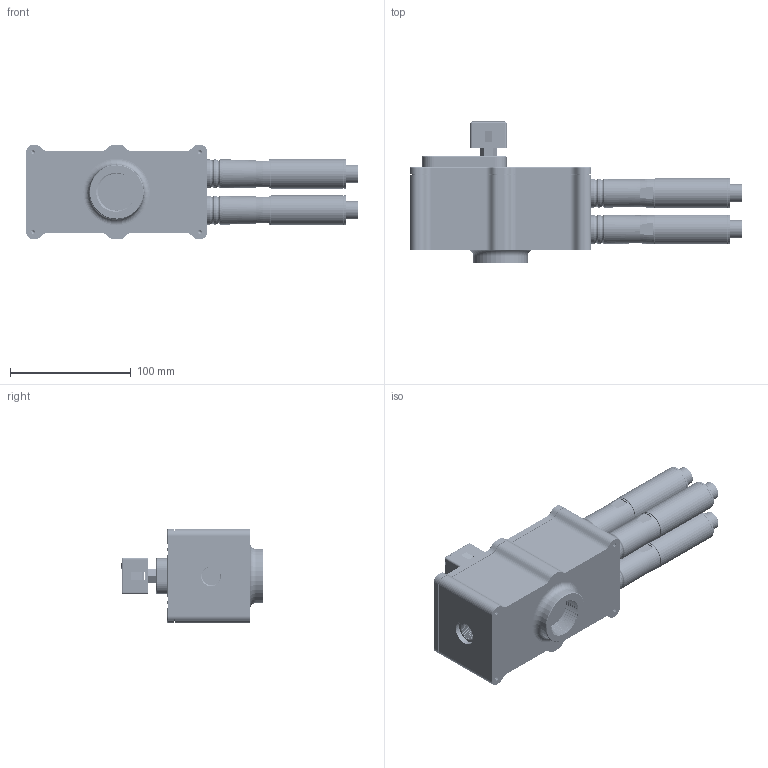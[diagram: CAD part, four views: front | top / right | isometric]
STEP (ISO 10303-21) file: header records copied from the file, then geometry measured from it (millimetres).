
FILE_DESCRIPTION (( 'STEP AP214' ), '1' );
FILE_NAME ('SIMP - PVP 6.STEP', '2023-12-20T13:57:16', ( '' ), ( '' ), 'SwSTEP 2.0', 'SolidWorks 2021', '' );
FILE_SCHEMA (( 'AUTOMOTIVE_DESIGN' ));
Length unit declared in the file: millimetre
Products named in the file (1): SIMP - PVP 6
Bounding box: 274.8 x 117.83 x 78 mm (x, y, z)
Volume: 948246.5 mm3; surface area: 169558.8 mm2
Topology: 14 solids, 26 shells, 2755 faces, 7442 edges, 4894 vertices
Faces by surface type: plane 1706, cylinder 560, bspline 254, cone 171, torus 57, sphere 7
Full cylindrical faces by diameter (mm): 1.5 x1, 2 x1, 3.3 x159, 4.2 x1, 4.5 x12, 8.2 x2, 11.2 x1, 12 x4, 14 x1, 14.5 x2, 15 x4, 16.66 x1, 17 x1, 17.3 x4, 20 x2, 20.3 x4, 20.5 x2, 22 x36, 22.3 x4, 24 x16, 24.2 x4, 24.5 x8, 45 x1
Entity records: 191051 total; most frequent: CARTESIAN_POINT 102644, ORIENTED_EDGE 13084, DIRECTION 10962, EDGE_CURVE 6542, LINE 4668, VECTOR 4668, VERTEX_POINT 4421, AXIS2_PLACEMENT_3D 3147
